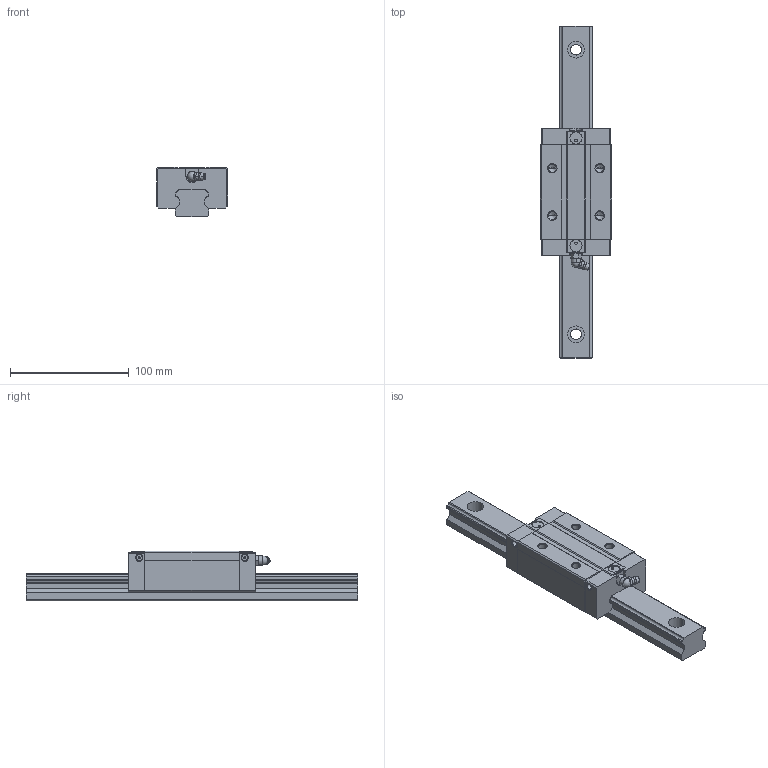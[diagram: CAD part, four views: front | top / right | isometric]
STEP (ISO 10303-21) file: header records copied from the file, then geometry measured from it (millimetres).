
FILE_DESCRIPTION((''),'1');
FILE_NAME(' ',' ',(''),(''),'ACIS Interop R16','Kubotek KeyCreator V6.5.2 (0407)',' ');
FILE_SCHEMA(('CONFIG_CONTROL_DESIGN'));
Length unit declared in the file: millimetre
Products named in the file (3): 1; 2; 3
Bounding box: 60 x 280 x 42 mm (x, y, z)
Volume: 328162.1 mm3; surface area: 62501 mm2
Topology: 3 solids, 3 shells, 232 faces, 615 edges, 401 vertices
Faces by surface type: plane 117, cylinder 74, cone 26, torus 10, sphere 3, bspline 2
Entity records: 7478 total; most frequent: CARTESIAN_POINT 1499, DIRECTION 1240, ORIENTED_EDGE 1210, EDGE_CURVE 605, AXIS2_PLACEMENT_3D 442, VERTEX_POINT 401, LINE 356, VECTOR 356
